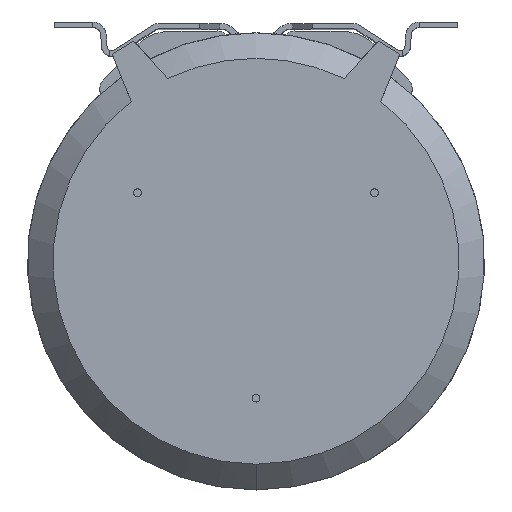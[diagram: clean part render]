
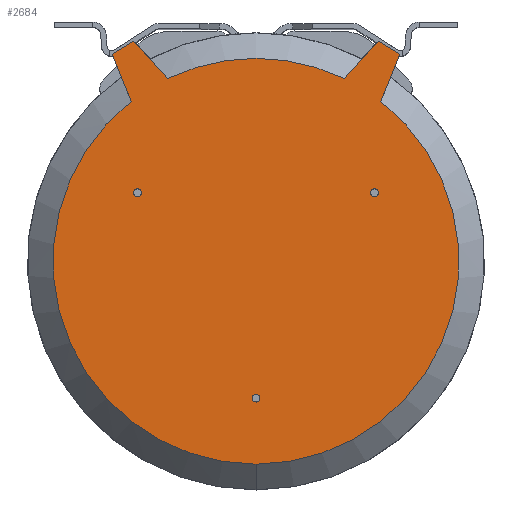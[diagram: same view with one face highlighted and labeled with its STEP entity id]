
A CAD part, top view. The second image highlights one B-rep face of the part: STEP entity #2684.
In plain terms, the highlighted planar face has unit normal (0, 0, 1).
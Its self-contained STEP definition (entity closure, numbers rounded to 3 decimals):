
#1 = EDGE_CURVE ( 'NONE', #4909, #539, #264, .T. ) ;
#20 = CARTESIAN_POINT ( 'NONE',  ( 105.086, 151.441, 103.04 ) ) ;
#51 = VERTEX_POINT ( 'NONE', #6151 ) ;
#261 = DIRECTION ( 'NONE',  ( 0., 0., 1. ) ) ;
#264 = CIRCLE ( 'NONE', #3762, 2.876 ) ;
#302 = CARTESIAN_POINT ( 'NONE',  ( 89.193, 160.953, 103.04 ) ) ;
#392 = CIRCLE ( 'NONE', #2555, 148.294 ) ;
#400 = FACE_OUTER_BOUND ( 'NONE', #5744, .T. ) ;
#535 = EDGE_CURVE ( 'NONE', #1505, #615, #1269, .T. ) ;
#539 = VERTEX_POINT ( 'NONE', #5522 ) ;
#572 = EDGE_CURVE ( 'NONE', #834, #4880, #4440, .T. ) ;
#599 = ORIENTED_EDGE ( 'NONE', *, *, #572, .T. ) ;
#602 = CARTESIAN_POINT ( 'NONE',  ( -64.497, 133.533, 103.04 ) ) ;
#615 = VERTEX_POINT ( 'NONE', #2332 ) ;
#743 = ORIENTED_EDGE ( 'NONE', *, *, #1, .F. ) ;
#784 = DIRECTION ( 'NONE',  ( -0.858, -0.514, 0. ) ) ;
#834 = VERTEX_POINT ( 'NONE', #20 ) ;
#849 = VERTEX_POINT ( 'NONE', #5417 ) ;
#887 = LINE ( 'NONE', #3315, #2236 ) ;
#994 = VERTEX_POINT ( 'NONE', #1146 ) ;
#1072 = CARTESIAN_POINT ( 'NONE',  ( 0., 0., 103.04 ) ) ;
#1077 = CARTESIAN_POINT ( 'NONE',  ( 0., -100., 103.04 ) ) ;
#1108 = CIRCLE ( 'NONE', #4912, 2.876 ) ;
#1120 = CARTESIAN_POINT ( 'NONE',  ( -86.603, 50., 103.04 ) ) ;
#1146 = CARTESIAN_POINT ( 'NONE',  ( 64.497, 133.533, 103.04 ) ) ;
#1207 = DIRECTION ( 'NONE',  ( 0., 0., 1. ) ) ;
#1210 = AXIS2_PLACEMENT_3D ( 'NONE', #5073, #1207, #2243 ) ;
#1269 = CIRCLE ( 'NONE', #2610, 148.294 ) ;
#1309 = DIRECTION ( 'NONE',  ( -0.615, 0.789, 0. ) ) ;
#1391 = VERTEX_POINT ( 'NONE', #2937 ) ;
#1425 = VERTEX_POINT ( 'NONE', #6334 ) ;
#1505 = VERTEX_POINT ( 'NONE', #2915 ) ;
#1521 = VECTOR ( 'NONE', #784, 1000. ) ;
#1523 = DIRECTION ( 'NONE',  ( 1., 0., 0. ) ) ;
#1619 = EDGE_LOOP ( 'NONE', ( #743, #1959 ) ) ;
#1705 = VECTOR ( 'NONE', #2442, 1000. ) ;
#1764 = CARTESIAN_POINT ( 'NONE',  ( -64.497, 133.533, 103.04 ) ) ;
#1785 = CARTESIAN_POINT ( 'NONE',  ( 2.876, -100., 103.04 ) ) ;
#1830 = CARTESIAN_POINT ( 'NONE',  ( 0., 0., 103.04 ) ) ;
#1853 = DIRECTION ( 'NONE',  ( 0.375, -0.927, 0. ) ) ;
#1857 = FACE_BOUND ( 'NONE', #1619, .T. ) ;
#1858 = ORIENTED_EDGE ( 'NONE', *, *, #5610, .T. ) ;
#1959 = ORIENTED_EDGE ( 'NONE', *, *, #2198, .F. ) ;
#2027 = ORIENTED_EDGE ( 'NONE', *, *, #2463, .F. ) ;
#2092 = CARTESIAN_POINT ( 'NONE',  ( 0., 0., 103.04 ) ) ;
#2113 = ORIENTED_EDGE ( 'NONE', *, *, #2308, .T. ) ;
#2197 = ORIENTED_EDGE ( 'NONE', *, *, #4356, .T. ) ;
#2198 = EDGE_CURVE ( 'NONE', #539, #4909, #5008, .T. ) ;
#2203 = ORIENTED_EDGE ( 'NONE', *, *, #5028, .F. ) ;
#2236 = VECTOR ( 'NONE', #4777, 1000. ) ;
#2243 = DIRECTION ( 'NONE',  ( -1., 0., 0. ) ) ;
#2262 = DIRECTION ( 'NONE',  ( 0., 0., 1. ) ) ;
#2308 = EDGE_CURVE ( 'NONE', #615, #834, #887, .T. ) ;
#2323 = LINE ( 'NONE', #4281, #5780 ) ;
#2332 = CARTESIAN_POINT ( 'NONE',  ( 91.158, 116.967, 103.04 ) ) ;
#2353 = DIRECTION ( 'NONE',  ( -0.615, 0.789, 0. ) ) ;
#2355 = VERTEX_POINT ( 'NONE', #2499 ) ;
#2391 = DIRECTION ( 'NONE',  ( 1., 0., 0. ) ) ;
#2442 = DIRECTION ( 'NONE',  ( -0.669, 0.743, 0. ) ) ;
#2463 = EDGE_CURVE ( 'NONE', #2471, #3251, #1108, .T. ) ;
#2471 = VERTEX_POINT ( 'NONE', #4004 ) ;
#2499 = CARTESIAN_POINT ( 'NONE',  ( -83.726, 50., 103.04 ) ) ;
#2526 = DIRECTION ( 'NONE',  ( 1., 0., 0. ) ) ;
#2555 = AXIS2_PLACEMENT_3D ( 'NONE', #3045, #4518, #6059 ) ;
#2599 = DIRECTION ( 'NONE',  ( -1., 0., 0. ) ) ;
#2610 = AXIS2_PLACEMENT_3D ( 'NONE', #2092, #6005, #2353 ) ;
#2684 = ADVANCED_FACE ( 'NONE', ( #1857, #2849, #4800, #400 ), #3461, .T. ) ;
#2849 = FACE_BOUND ( 'NONE', #4875, .T. ) ;
#2915 = CARTESIAN_POINT ( 'NONE',  ( 0., -148.294, 103.04 ) ) ;
#2937 = CARTESIAN_POINT ( 'NONE',  ( -89.193, 160.953, 103.04 ) ) ;
#3023 = DIRECTION ( 'NONE',  ( 0., 0., 1. ) ) ;
#3045 = CARTESIAN_POINT ( 'NONE',  ( 0., 0., 103.04 ) ) ;
#3063 = EDGE_CURVE ( 'NONE', #4880, #994, #3518, .T. ) ;
#3071 = CIRCLE ( 'NONE', #4915, 2.876 ) ;
#3090 = CIRCLE ( 'NONE', #4617, 2.876 ) ;
#3211 = LINE ( 'NONE', #5190, #1521 ) ;
#3221 = VECTOR ( 'NONE', #4378, 1000. ) ;
#3227 = EDGE_CURVE ( 'NONE', #3251, #2471, #5475, .T. ) ;
#3251 = VERTEX_POINT ( 'NONE', #4836 ) ;
#3260 = EDGE_CURVE ( 'NONE', #849, #51, #2323, .T. ) ;
#3264 = DIRECTION ( 'NONE',  ( -1., 0., 0. ) ) ;
#3276 = CARTESIAN_POINT ( 'NONE',  ( 105.086, 151.441, 103.04 ) ) ;
#3315 = CARTESIAN_POINT ( 'NONE',  ( 91.158, 116.967, 103.04 ) ) ;
#3447 = ORIENTED_EDGE ( 'NONE', *, *, #3769, .F. ) ;
#3461 = PLANE ( 'NONE',  #4097 ) ;
#3492 = DIRECTION ( 'NONE',  ( 0., 0., 1. ) ) ;
#3518 = LINE ( 'NONE', #3988, #3221 ) ;
#3540 = LINE ( 'NONE', #602, #1705 ) ;
#3734 = VECTOR ( 'NONE', #4256, 1000. ) ;
#3762 = AXIS2_PLACEMENT_3D ( 'NONE', #1077, #6115, #6090 ) ;
#3769 = EDGE_CURVE ( 'NONE', #2355, #1425, #3071, .T. ) ;
#3859 = ORIENTED_EDGE ( 'NONE', *, *, #5178, .T. ) ;
#3988 = CARTESIAN_POINT ( 'NONE',  ( 89.193, 160.953, 103.04 ) ) ;
#4004 = CARTESIAN_POINT ( 'NONE',  ( 89.479, 50., 103.04 ) ) ;
#4097 = AXIS2_PLACEMENT_3D ( 'NONE', #1072, #3492, #1523 ) ;
#4256 = DIRECTION ( 'NONE',  ( -0.858, 0.514, 0. ) ) ;
#4281 = CARTESIAN_POINT ( 'NONE',  ( -105.086, 151.441, 103.04 ) ) ;
#4356 = EDGE_CURVE ( 'NONE', #4381, #1391, #3540, .T. ) ;
#4378 = DIRECTION ( 'NONE',  ( -0.669, -0.743, 0. ) ) ;
#4381 = VERTEX_POINT ( 'NONE', #1764 ) ;
#4438 = ORIENTED_EDGE ( 'NONE', *, *, #3260, .T. ) ;
#4440 = LINE ( 'NONE', #3276, #3734 ) ;
#4444 = ORIENTED_EDGE ( 'NONE', *, *, #3063, .T. ) ;
#4471 = EDGE_LOOP ( 'NONE', ( #3447, #2203 ) ) ;
#4518 = DIRECTION ( 'NONE',  ( 0., 0., 1. ) ) ;
#4602 = ORIENTED_EDGE ( 'NONE', *, *, #535, .T. ) ;
#4617 = AXIS2_PLACEMENT_3D ( 'NONE', #1120, #5041, #2599 ) ;
#4666 = CARTESIAN_POINT ( 'NONE',  ( -86.603, 50., 103.04 ) ) ;
#4696 = AXIS2_PLACEMENT_3D ( 'NONE', #1830, #6196, #1309 ) ;
#4777 = DIRECTION ( 'NONE',  ( 0.375, 0.927, 0. ) ) ;
#4800 = FACE_BOUND ( 'NONE', #4471, .T. ) ;
#4836 = CARTESIAN_POINT ( 'NONE',  ( 83.726, 50., 103.04 ) ) ;
#4875 = EDGE_LOOP ( 'NONE', ( #5104, #2027 ) ) ;
#4880 = VERTEX_POINT ( 'NONE', #302 ) ;
#4909 = VERTEX_POINT ( 'NONE', #1785 ) ;
#4912 = AXIS2_PLACEMENT_3D ( 'NONE', #5932, #3023, #2526 ) ;
#4915 = AXIS2_PLACEMENT_3D ( 'NONE', #4666, #261, #2391 ) ;
#5008 = CIRCLE ( 'NONE', #1210, 2.876 ) ;
#5028 = EDGE_CURVE ( 'NONE', #1425, #2355, #3090, .T. ) ;
#5041 = DIRECTION ( 'NONE',  ( 0., 0., 1. ) ) ;
#5073 = CARTESIAN_POINT ( 'NONE',  ( 0., -100., 103.04 ) ) ;
#5104 = ORIENTED_EDGE ( 'NONE', *, *, #3227, .F. ) ;
#5178 = EDGE_CURVE ( 'NONE', #51, #1505, #6052, .T. ) ;
#5190 = CARTESIAN_POINT ( 'NONE',  ( -89.193, 160.953, 103.04 ) ) ;
#5250 = CARTESIAN_POINT ( 'NONE',  ( 86.603, 50., 103.04 ) ) ;
#5417 = CARTESIAN_POINT ( 'NONE',  ( -105.086, 151.441, 103.04 ) ) ;
#5475 = CIRCLE ( 'NONE', #6297, 2.876 ) ;
#5522 = CARTESIAN_POINT ( 'NONE',  ( -2.876, -100., 103.04 ) ) ;
#5538 = ORIENTED_EDGE ( 'NONE', *, *, #5856, .T. ) ;
#5610 = EDGE_CURVE ( 'NONE', #1391, #849, #3211, .T. ) ;
#5744 = EDGE_LOOP ( 'NONE', ( #2113, #599, #4444, #5538, #2197, #1858, #4438, #3859, #4602 ) ) ;
#5780 = VECTOR ( 'NONE', #1853, 1000. ) ;
#5856 = EDGE_CURVE ( 'NONE', #994, #4381, #392, .T. ) ;
#5932 = CARTESIAN_POINT ( 'NONE',  ( 86.603, 50., 103.04 ) ) ;
#6005 = DIRECTION ( 'NONE',  ( 0., 0., 1. ) ) ;
#6052 = CIRCLE ( 'NONE', #4696, 148.294 ) ;
#6059 = DIRECTION ( 'NONE',  ( 0.435, 0.9, 0. ) ) ;
#6090 = DIRECTION ( 'NONE',  ( 1., 0., 0. ) ) ;
#6115 = DIRECTION ( 'NONE',  ( 0., 0., 1. ) ) ;
#6151 = CARTESIAN_POINT ( 'NONE',  ( -91.158, 116.967, 103.04 ) ) ;
#6196 = DIRECTION ( 'NONE',  ( 0., 0., 1. ) ) ;
#6297 = AXIS2_PLACEMENT_3D ( 'NONE', #5250, #2262, #3264 ) ;
#6334 = CARTESIAN_POINT ( 'NONE',  ( -89.479, 50., 103.04 ) ) ;
